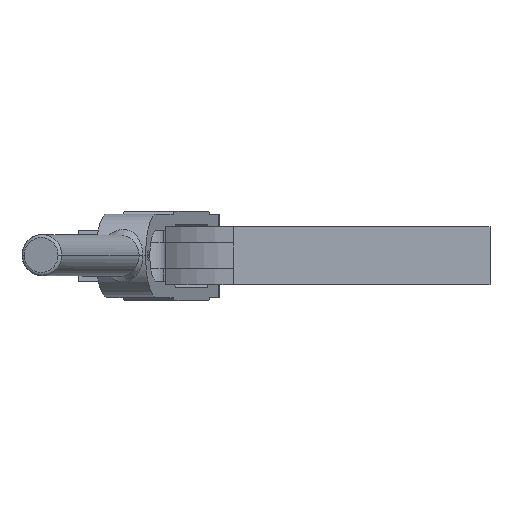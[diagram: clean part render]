
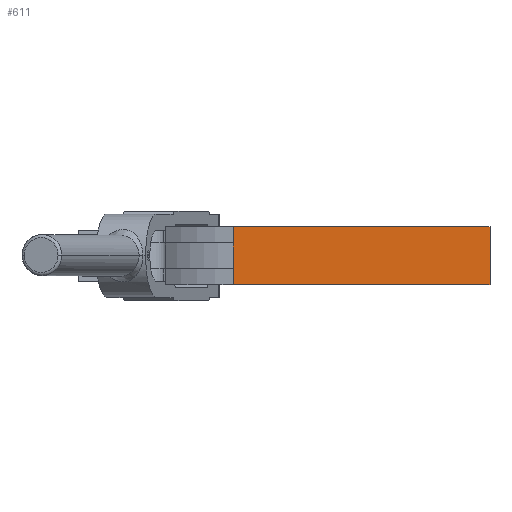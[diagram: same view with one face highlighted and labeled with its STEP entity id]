
A CAD part, top view. The second image highlights one B-rep face of the part: STEP entity #611.
In plain terms, the highlighted planar face has unit normal (0, 0, 1).
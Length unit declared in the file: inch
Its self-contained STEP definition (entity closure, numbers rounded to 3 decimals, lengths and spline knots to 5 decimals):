
#611 = ADVANCED_FACE( '', ( #903 ), #904, .T. );
#903 = FACE_OUTER_BOUND( '', #1267, .T. );
#904 = PLANE( '', #1268 );
#1267 = EDGE_LOOP( '', ( #2294, #2295, #2296, #2297, #2298, #2299 ) );
#1268 = AXIS2_PLACEMENT_3D( '', #2300, #2301, #2302 );
#2294 = ORIENTED_EDGE( '', *, *, #3113, .F. );
#2295 = ORIENTED_EDGE( '', *, *, #3047, .F. );
#2296 = ORIENTED_EDGE( '', *, *, #3112, .F. );
#2297 = ORIENTED_EDGE( '', *, *, #3109, .F. );
#2298 = ORIENTED_EDGE( '', *, *, #3107, .T. );
#2299 = ORIENTED_EDGE( '', *, *, #3114, .T. );
#2300 = CARTESIAN_POINT( '', ( 3.99985, 0.125, 2.62527 ) );
#2301 = DIRECTION( '', ( 0., 0., 1. ) );
#2302 = DIRECTION( '', ( 1., 0., 0. ) );
#3047 = EDGE_CURVE( '', #3661, #3664, #3665, .T. );
#3107 = EDGE_CURVE( '', #3765, #3763, #3766, .T. );
#3109 = EDGE_CURVE( '', #3765, #3768, #3769, .T. );
#3112 = EDGE_CURVE( '', #3768, #3661, #3772, .T. );
#3113 = EDGE_CURVE( '', #3664, #3773, #3774, .T. );
#3114 = EDGE_CURVE( '', #3763, #3773, #3775, .T. );
#3661 = VERTEX_POINT( '', #4612 );
#3664 = VERTEX_POINT( '', #4615 );
#3665 = LINE( '', #4616, #4617 );
#3763 = VERTEX_POINT( '', #4787 );
#3765 = VERTEX_POINT( '', #4790 );
#3766 = LINE( '', #4791, #4792 );
#3768 = VERTEX_POINT( '', #4794 );
#3769 = LINE( '', #4795, #4796 );
#3772 = B_SPLINE_CURVE_WITH_KNOTS( '', 3, ( #4799, #4800, #4801, #4802 ), .UNSPECIFIED., .F., .F., ( 4, 4 ), ( 0., 1. ), .UNSPECIFIED. );
#3773 = VERTEX_POINT( '', #4803 );
#3774 = LINE( '', #4804, #4805 );
#3775 = LINE( '', #4806, #4807 );
#4612 = CARTESIAN_POINT( '', ( 1.50003, 0.125, 2.62527 ) );
#4615 = CARTESIAN_POINT( '', ( 1.50001, 0.28125, 2.62527 ) );
#4616 = CARTESIAN_POINT( '', ( 1.50001, 0.125, 2.62527 ) );
#4617 = VECTOR( '', #5597, 1. );
#4787 = CARTESIAN_POINT( '', ( 3.99985, -0.28125, 2.62527 ) );
#4790 = CARTESIAN_POINT( '', ( 1.50001, -0.28125, 2.62527 ) );
#4791 = CARTESIAN_POINT( '', ( 1.50001, -0.28125, 2.62527 ) );
#4792 = VECTOR( '', #5686, 1. );
#4794 = CARTESIAN_POINT( '', ( 1.50003, -0.125, 2.62527 ) );
#4795 = CARTESIAN_POINT( '', ( 1.50001, -0.28125, 2.62527 ) );
#4796 = VECTOR( '', #5690, 1. );
#4799 = CARTESIAN_POINT( '', ( 1.50002, -0.125, 2.62527 ) );
#4800 = CARTESIAN_POINT( '', ( 1.50002, -0.04167, 2.62527 ) );
#4801 = CARTESIAN_POINT( '', ( 1.50002, 0.04167, 2.62527 ) );
#4802 = CARTESIAN_POINT( '', ( 1.50002, 0.125, 2.62527 ) );
#4803 = CARTESIAN_POINT( '', ( 3.99985, 0.28125, 2.62527 ) );
#4804 = CARTESIAN_POINT( '', ( 1.50001, 0.28125, 2.62527 ) );
#4805 = VECTOR( '', #5697, 1. );
#4806 = CARTESIAN_POINT( '', ( 3.99985, -0.28125, 2.62527 ) );
#4807 = VECTOR( '', #5698, 1. );
#5597 = DIRECTION( '', ( 0., 1., 0. ) );
#5686 = DIRECTION( '', ( 1., 0., 0. ) );
#5690 = DIRECTION( '', ( 0., 1., 0. ) );
#5697 = DIRECTION( '', ( 1., 0., 0. ) );
#5698 = DIRECTION( '', ( 0., 1., 0. ) );
